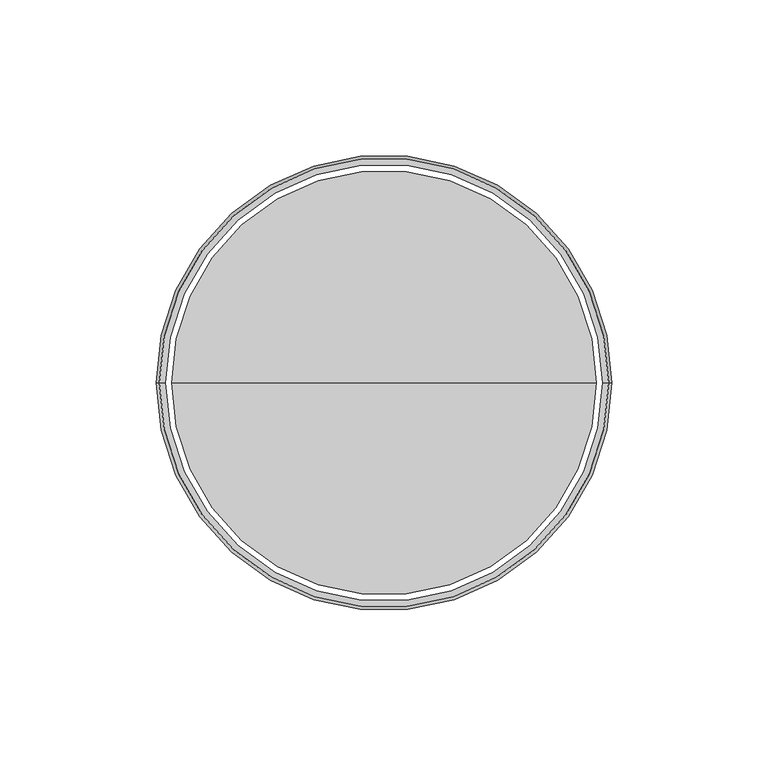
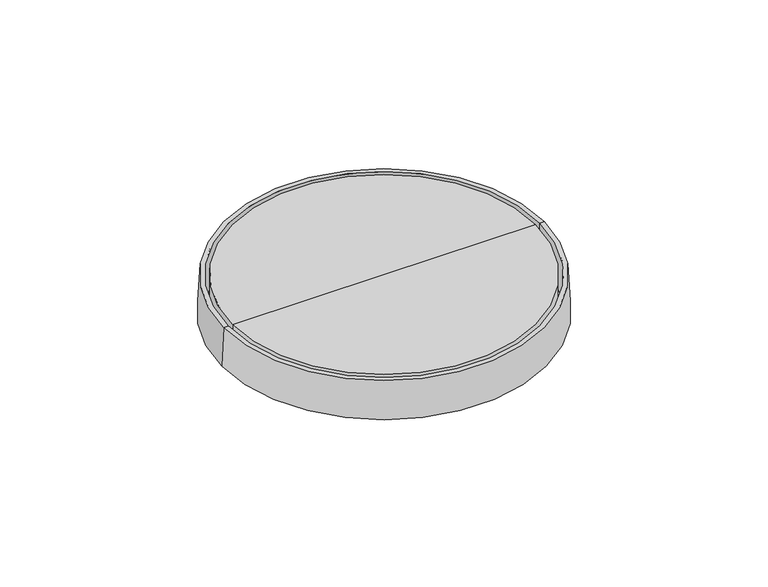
"""IFC4 building model written with IfcOpenShell, lengths in millimetres: sanitary terminal geometry, NLRS_PF_52_UN_Aqua Round_in_uitloop_Easydrain : Aqua Round onderuitloop 50mm, zij-ingang 40mm."""

from ifc_helpers import new_model, si_unit, frame, origin, origin_with_axes, place, context, project, spatial, polyline, circle_curve, source, transform, mapped, element, save
from ifc_brep_helpers import plane_surface, cylinder_surface, revolved_surface, advanced_brep


def sanitary_terminal_cd1ec674(model_context):
    return source(origin(), model_context, "Body", "AdvancedBrep", [
        advanced_brep(
        [(72.0, 0.0, 0.0), (-72.0, 0.0, 0.0), (-70.0, 0.0, 0.0), (70.0, 0.0, 0.0), (73.0, 0.0, -18.0), (-73.0, 0.0, -18.0), (70.0, 0.0, -18.0), (-70.0, 0.0, -18.0)],
        [
            (0, 1, circle_curve(frame((0.0, 0.0, 0.0), z_axis=(0.0, 0.0, 1.0), x_axis=(-1.0, 0.0, 0.0)), 72.0)),
            (1, 2),
            (2, 3, circle_curve(frame((0.0, 0.0, 0.0), z_axis=(0.0, 0.0, -1.0), x_axis=(1.0, 0.0, 0.0)), 70.0)),
            (3, 0),
            (1, 0, circle_curve(frame((0.0, 0.0, 0.0), z_axis=(0.0, 0.0, 1.0), x_axis=(-1.0, 0.0, 0.0)), 72.0)),
            (3, 2, circle_curve(frame((0.0, 0.0, 0.0), z_axis=(0.0, 0.0, -1.0), x_axis=(1.0, 0.0, 0.0)), 70.0)),
            (0, 4),
            (4, 5, circle_curve(frame((0.0, 0.0, -18.0), z_axis=(0.0, 0.0, 1.0), x_axis=(-1.0, 0.0, 0.0)), 73.0)),
            (5, 1),
            (5, 4, circle_curve(frame((0.0, 0.0, -18.0), z_axis=(0.0, 0.0, 1.0), x_axis=(-1.0, 0.0, 0.0)), 73.0)),
            (4, 6),
            (6, 7, circle_curve(frame((0.0, 0.0, -18.0), z_axis=(0.0, 0.0, 1.0), x_axis=(1.0, 0.0, 0.0)), 70.0)),
            (7, 5),
            (7, 6, circle_curve(frame((0.0, 0.0, -18.0), z_axis=(0.0, 0.0, 1.0), x_axis=(1.0, 0.0, 0.0)), 70.0)),
            (3, 6),
            (7, 2),
        ],
        [
            plane_surface(frame((0.0, 0.0, 0.0), z_axis=(0.0, 0.0, 1.0), x_axis=(-1.0, 0.0, 0.0))),
            revolved_surface(polyline([(-72.0, 0.0, 0.0), (-73.0, 0.0, -18.0)]), (0.0, 0.0, 10.0), (0.0, 0.0, -1.0)),
            plane_surface(frame((0.0, 0.0, -18.0), z_axis=(0.0, 0.0, -1.0), x_axis=(-1.0, 0.0, 0.0))),
            revolved_surface(polyline([(70.0, 0.0, 0.0), (70.0, 0.0, -18.0)]), (0.0, 0.0, -18.0), (0.0, 0.0, 1.0)),
        ],
        [
            (0, [[1, 2, 3, 4]]),
            (0, [[5, -4, 6, -2]]),
            (1, [[-1, 7, 8, 9]]),
            (1, [[-5, -9, 10, -7]]),
            (2, [[-8, 11, 12, 13]]),
            (2, [[-10, -13, 14, -11]]),
            (3, [[15, -14, 16, -6]]),
            (3, [[-15, -3, -16, -12]]),
        ],
    ),
        advanced_brep(
        [(-68.0, 0.0, 0.0), (0.0, 0.0, 0.0), (68.0, 0.0, 0.0), (0.0, 0.0, -18.0), (-68.0, 0.0, -18.0), (68.0, 0.0, -18.0)],
        [
            (0, 1),
            (1, 2),
            (2, 0, circle_curve(origin_with_axes(), 68.0)),
            (0, 2, circle_curve(origin_with_axes(), 68.0)),
            (3, 4),
            (4, 5, circle_curve(frame((0.0, 0.0, -18.0), z_axis=(0.0, 0.0, -1.0), x_axis=(1.0, 0.0, 0.0)), 68.0)),
            (5, 3),
            (5, 4, circle_curve(frame((0.0, 0.0, -18.0), z_axis=(0.0, 0.0, -1.0), x_axis=(1.0, 0.0, 0.0)), 68.0)),
            (2, 5),
            (4, 0),
        ],
        [
            plane_surface(frame((0.0, 0.0, 0.0), z_axis=(0.0, 0.0, 1.0), x_axis=(-1.0, 0.0, 0.0))),
            plane_surface(frame((0.0, 0.0, -18.0), z_axis=(0.0, 0.0, -1.0), x_axis=(-1.0, 0.0, 0.0))),
            cylinder_surface(frame((0.0, 0.0, 0.0), z_axis=(0.0, 0.0, -1.0), x_axis=(1.0, 0.0, 0.0)), 68.0),
        ],
        [
            (0, [[1, 2, 3]]),
            (0, [[-1, 4, -2]]),
            (1, [[5, 6, 7]]),
            (1, [[-5, -7, 8]]),
            (2, [[9, -6, 10, -3]]),
            (2, [[-9, -4, -10, -8]]),
        ],
    ),
    ])


if __name__ == "__main__":
    model = new_model("IFC4")
    model_context = context("Model", 3, world=origin())
    ifc_project = project(units=[si_unit("LENGTHUNIT", "METRE", prefix="MILLI")], contexts=[model_context])
    site = spatial("IfcSite", under=ifc_project)
    building = spatial("IfcBuilding", under=site)
    placement = place(None, origin())
    sanitary_terminal_shape = sanitary_terminal_cd1ec674(model_context)
    element("IfcSanitaryTerminal", 1, ObjectType="NLRS_PF_52_UN_Aqua Round_in_uitloop_Easydrain : Aqua Round onderuitloop 50mm, zij-ingang 40mm", at=placement, inside=building, context=model_context, shape_type="MappedRepresentation", body=[
        mapped(sanitary_terminal_shape, transform((0.0, 0.0, 0.0), x_axis=(1.0, 0.0, 0.0), y_axis=(0.0, 1.0, 0.0), z_axis=(0.0, 0.0, 1.0))),
    ])
    save(model, "model.ifc")
